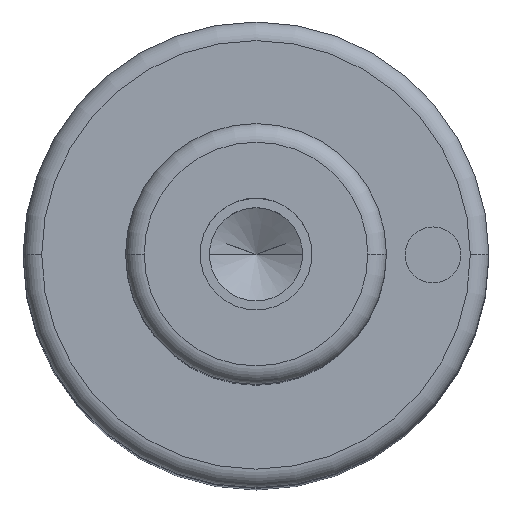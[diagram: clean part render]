
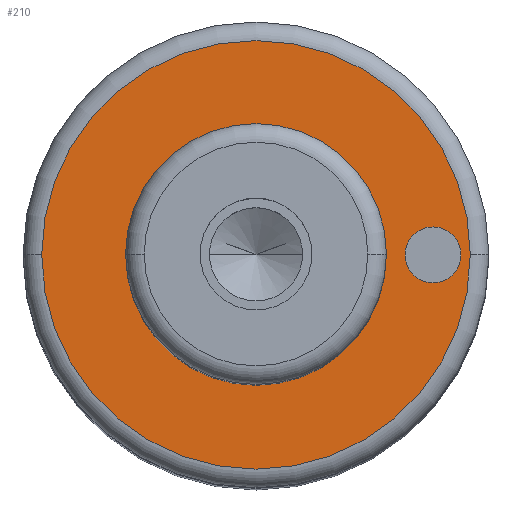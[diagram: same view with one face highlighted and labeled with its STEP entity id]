
A CAD part, top view. The second image highlights one B-rep face of the part: STEP entity #210.
In plain terms, the highlighted planar face has unit normal (0, 0, 1).
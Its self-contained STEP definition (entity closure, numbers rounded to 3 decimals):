
#99=PLANE('',#660);
#107=FACE_BOUND('',#285,.T.);
#108=FACE_BOUND('',#286,.T.);
#109=FACE_BOUND('',#287,.T.);
#210=ADVANCED_FACE('',(#107,#108,#109),#99,.T.);
#285=EDGE_LOOP('',(#395,#396));
#286=EDGE_LOOP('',(#397,#398));
#287=EDGE_LOOP('',(#399,#400));
#395=ORIENTED_EDGE('',*,*,#500,.F.);
#396=ORIENTED_EDGE('',*,*,#501,.F.);
#397=ORIENTED_EDGE('',*,*,#533,.F.);
#398=ORIENTED_EDGE('',*,*,#534,.F.);
#399=ORIENTED_EDGE('',*,*,#496,.T.);
#400=ORIENTED_EDGE('',*,*,#494,.T.);
#447=VERTEX_POINT('',#894);
#448=VERTEX_POINT('',#896);
#449=VERTEX_POINT('',#902);
#452=VERTEX_POINT('',#907);
#470=VERTEX_POINT('',#977);
#471=VERTEX_POINT('',#978);
#494=EDGE_CURVE('',#448,#447,#561,.T.);
#496=EDGE_CURVE('',#447,#448,#562,.T.);
#500=EDGE_CURVE('',#452,#449,#566,.T.);
#501=EDGE_CURVE('',#449,#452,#567,.T.);
#533=EDGE_CURVE('',#470,#471,#587,.T.);
#534=EDGE_CURVE('',#471,#470,#588,.T.);
#561=CIRCLE('',#612,7.);
#562=CIRCLE('',#614,7.);
#566=CIRCLE('',#619,11.5);
#567=CIRCLE('',#621,11.5);
#587=CIRCLE('',#658,1.5);
#588=CIRCLE('',#659,1.5);
#612=AXIS2_PLACEMENT_3D('',#895,#711,#712);
#614=AXIS2_PLACEMENT_3D('',#899,#716,#717);
#619=AXIS2_PLACEMENT_3D('',#908,#726,#727);
#621=AXIS2_PLACEMENT_3D('',#910,#730,#731);
#658=AXIS2_PLACEMENT_3D('',#976,#816,#817);
#659=AXIS2_PLACEMENT_3D('',#979,#818,#819);
#660=AXIS2_PLACEMENT_3D('',#980,#820,#821);
#711=DIRECTION('',(0.,0.,-1.));
#712=DIRECTION('',(0.,1.,0.));
#716=DIRECTION('',(0.,0.,-1.));
#717=DIRECTION('',(0.,-1.,0.));
#726=DIRECTION('',(0.,0.,-1.));
#727=DIRECTION('',(0.,1.,0.));
#730=DIRECTION('',(0.,0.,-1.));
#731=DIRECTION('',(0.,-1.,0.));
#816=DIRECTION('',(0.,0.,1.));
#817=DIRECTION('',(0.,1.,0.));
#818=DIRECTION('',(0.,0.,1.));
#819=DIRECTION('',(0.,-1.,0.));
#820=DIRECTION('',(0.,0.,1.));
#821=DIRECTION('',(0.,-1.,0.));
#894=CARTESIAN_POINT('',(-7.,0.,69.));
#895=CARTESIAN_POINT('',(0.,0.,69.));
#896=CARTESIAN_POINT('',(7.,0.,69.));
#899=CARTESIAN_POINT('',(0.,0.,69.));
#902=CARTESIAN_POINT('',(-11.5,0.,69.));
#907=CARTESIAN_POINT('',(11.5,0.,69.));
#908=CARTESIAN_POINT('',(0.,0.,69.));
#910=CARTESIAN_POINT('',(0.,0.,69.));
#976=CARTESIAN_POINT('',(9.5,0.,69.));
#977=CARTESIAN_POINT('',(8.,0.,69.));
#978=CARTESIAN_POINT('',(11.,0.,69.));
#979=CARTESIAN_POINT('',(9.5,0.,69.));
#980=CARTESIAN_POINT('',(0.,0.,69.));
